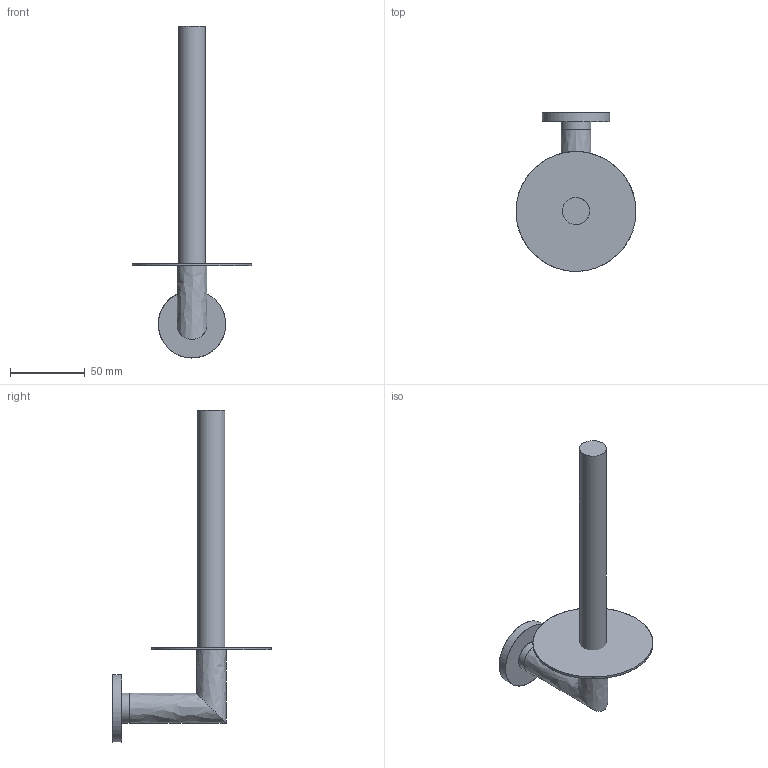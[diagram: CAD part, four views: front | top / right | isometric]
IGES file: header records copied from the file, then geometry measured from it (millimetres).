
Global section: file name: /Users/f/Desktop/I'/AE230.igs; native system: Rhinoceros ( Jul 22 2010 ); preprocessor: Trout Lake IGES 012 Jul 22 2010; date: 100803.085601; units: millimetre
Bounding box: 80 x 106 x 221.5 mm (x, y, z)
Surface area: 30888.5 mm2 (no closed solid volume)
Topology: 0 solids, 0 shells, 14 faces, 507 edges, 501 vertices
Faces by surface type: bspline 14
